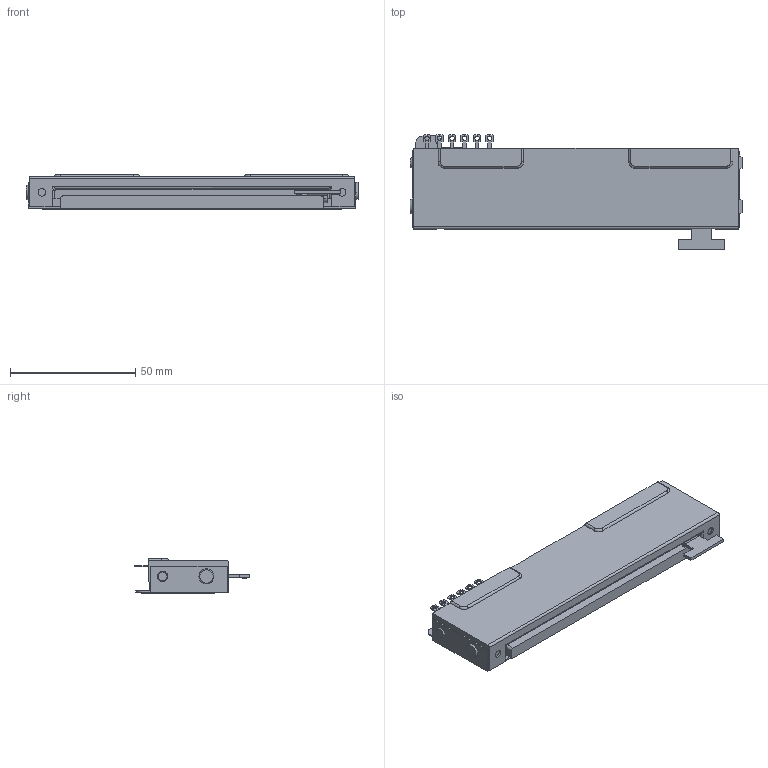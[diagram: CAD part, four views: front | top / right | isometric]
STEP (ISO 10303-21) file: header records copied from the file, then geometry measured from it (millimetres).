
FILE_DESCRIPTION (( 'STEP AP214' ), '1' );
FILE_NAME ('RSA0K12A901H.STEP', '2021-06-04T02:09:18', ( '' ), ( '' ), 'SwSTEP 2.0', 'SolidWorks 2019', '' );
FILE_SCHEMA (( 'AUTOMOTIVE_DESIGN' ));
Length unit declared in the file: millimetre
Products named in the file (1): RSA0K12A901H
Bounding box: 132.6 x 45.95 x 13.9 mm (x, y, z)
Volume: 52365.6 mm3; surface area: 14567.3 mm2
Topology: 1 solids, 1 shells, 249 faces, 676 edges, 441 vertices
Faces by surface type: plane 143, cylinder 76, torus 20, cone 8, bspline 2
Entity records: 8886 total; most frequent: CARTESIAN_POINT 1508, ORIENTED_EDGE 1348, DIRECTION 1347, EDGE_CURVE 674, VECTOR 463, LINE 463, AXIS2_PLACEMENT_3D 442, VERTEX_POINT 441
